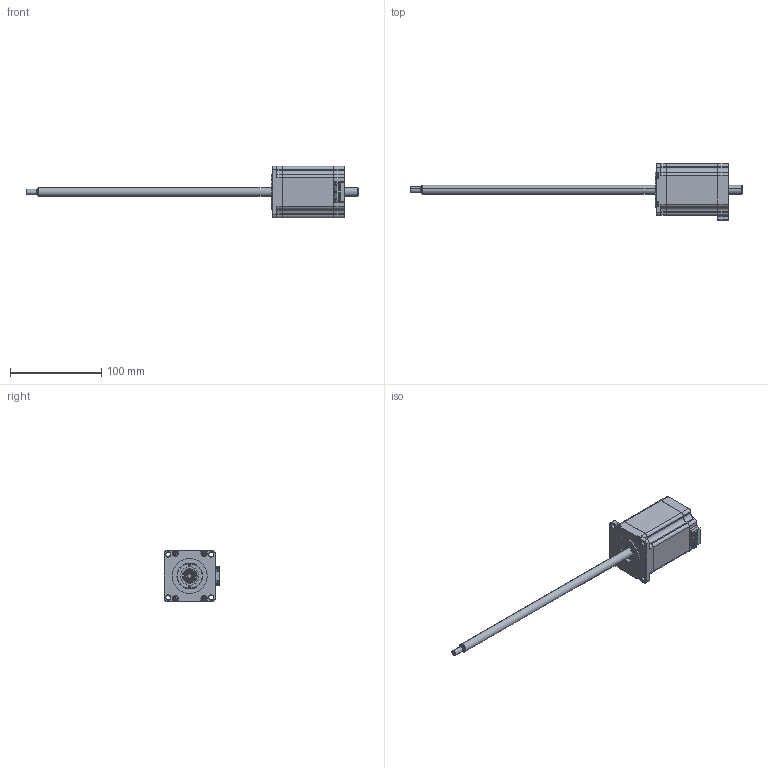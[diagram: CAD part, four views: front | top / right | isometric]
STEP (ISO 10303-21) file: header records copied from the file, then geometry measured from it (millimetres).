
FILE_DESCRIPTION (( 'STEP AP203' ), '1' );
FILE_NAME ('LN23AS-E09050-350-S-300.STEP', '2019-04-13T02:20:55', ( 'Sky123.Org' ), ( 'Sky123.Org' ), 'SwSTEP 2.0', 'SolidWorks 2014', '' );
FILE_SCHEMA (( 'CONFIG_CONTROL_DESIGN' ));
Length unit declared in the file: millimetre
Products named in the file (1): LN23AS-E09050-350-S-300
Bounding box: 363 x 61.2 x 56.2 mm (x, y, z)
Surface area: 43013.6 mm2 (no closed solid volume)
Topology: 0 solids, 18 shells, 354 faces, 1101 edges, 744 vertices
Faces by surface type: plane 169, cylinder 94, cone 79, sphere 8, torus 4
Entity records: 12665 total; most frequent: CARTESIAN_POINT 2809, DIRECTION 2082, ORIENTED_EDGE 1867, EDGE_CURVE 1101, VERTEX_POINT 744, AXIS2_PLACEMENT_3D 725, LINE 632, VECTOR 632
